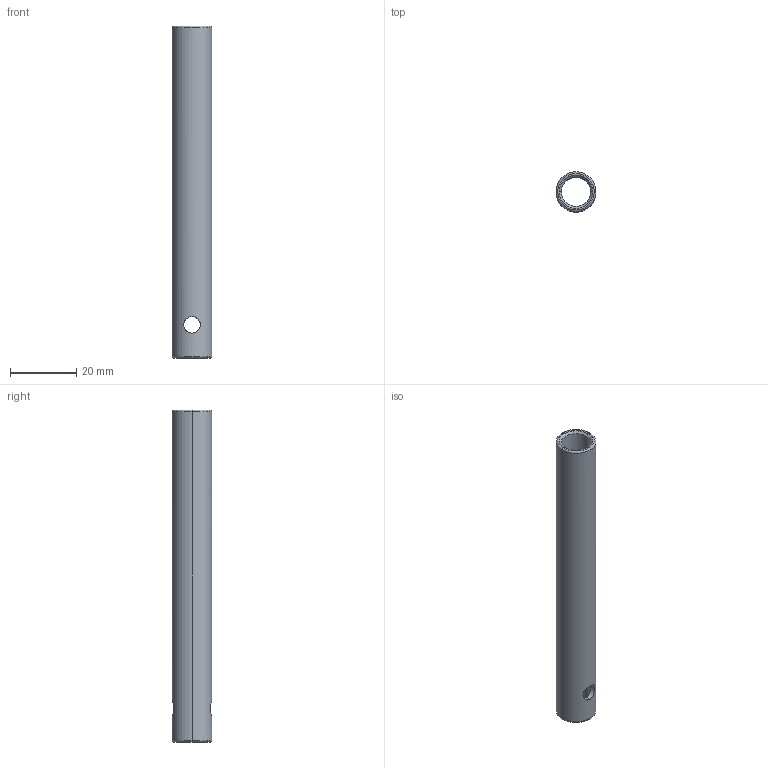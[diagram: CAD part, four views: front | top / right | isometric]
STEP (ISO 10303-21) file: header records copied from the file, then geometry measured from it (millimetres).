
FILE_DESCRIPTION (( 'STEP AP214' ), '1' );
FILE_NAME ('SMBY12-100.STEP', '2023-01-05T08:23:52', ( 'Windows User' ), ( 'P R C' ), 'SwSTEP 2.0', 'SolidWorks 2018', '' );
FILE_SCHEMA (( 'AUTOMOTIVE_DESIGN' ));
Length unit declared in the file: millimetre
Products named in the file (1): SMBY12-100
Bounding box: 12 x 12 x 100 mm (x, y, z)
Volume: 4911.1 mm3; surface area: 6637.5 mm2
Topology: 1 solids, 1 shells, 19 faces, 42 edges, 26 vertices
Faces by surface type: cylinder 10, torus 4, plane 3, cone 2
Entity records: 818 total; most frequent: CARTESIAN_POINT 324, DIRECTION 96, ORIENTED_EDGE 84, AXIS2_PLACEMENT_3D 42, EDGE_CURVE 42, EDGE_LOOP 26, VERTEX_POINT 26, CIRCLE 22
